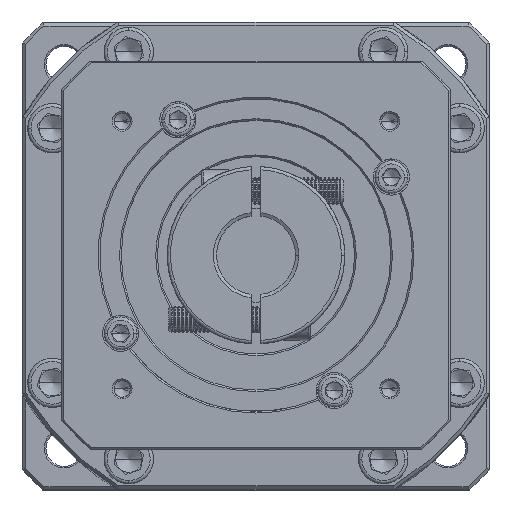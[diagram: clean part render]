
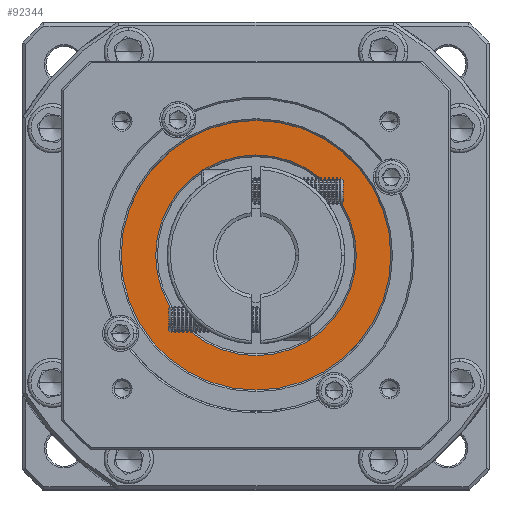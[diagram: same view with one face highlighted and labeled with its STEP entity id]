
A CAD part, top view. The second image highlights one B-rep face of the part: STEP entity #92344.
In plain terms, the highlighted planar face has unit normal (0, 0, 1).
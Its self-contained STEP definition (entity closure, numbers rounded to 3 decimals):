
#9160 = FACE_OUTER_BOUND ( 'NONE', #101639, .T. ) ;
#9846 = DIRECTION ( 'NONE',  ( 1., 0., 0. ) ) ;
#14684 = DIRECTION ( 'NONE',  ( 0., 0., 1. ) ) ;
#20465 = DIRECTION ( 'NONE',  ( 0., 0., 1. ) ) ;
#20632 = VERTEX_POINT ( 'NONE', #104989 ) ;
#37775 = CARTESIAN_POINT ( 'NONE',  ( -174.735, 76.693, 18.4 ) ) ;
#51844 = EDGE_CURVE ( 'NONE', #143214, #99450, #75699, .T. ) ;
#55231 = EDGE_CURVE ( 'NONE', #135789, #20632, #128345, .T. ) ;
#55668 = DIRECTION ( 'NONE',  ( 0., 0., -1. ) ) ;
#62570 = AXIS2_PLACEMENT_3D ( 'NONE', #111612, #20465, #122479 ) ;
#64929 = DIRECTION ( 'NONE',  ( 0., 0., 1. ) ) ;
#66290 = AXIS2_PLACEMENT_3D ( 'NONE', #132580, #64929, #9846 ) ;
#70120 = ORIENTED_EDGE ( 'NONE', *, *, #51844, .T. ) ;
#75699 = CIRCLE ( 'NONE', #141513, 30.5 ) ;
#78830 = ORIENTED_EDGE ( 'NONE', *, *, #91000, .T. ) ;
#87558 = ORIENTED_EDGE ( 'NONE', *, *, #139306, .T. ) ;
#91000 = EDGE_CURVE ( 'NONE', #99450, #143214, #115800, .T. ) ;
#92344 = ADVANCED_FACE ( 'NONE', ( #9160, #106133 ), #144919, .T. ) ;
#95483 = EDGE_LOOP ( 'NONE', ( #78830, #70120 ) ) ;
#97180 = CIRCLE ( 'NONE', #120752, 41. ) ;
#97487 = DIRECTION ( 'NONE',  ( 1., 0., 0. ) ) ;
#99450 = VERTEX_POINT ( 'NONE', #146237 ) ;
#101639 = EDGE_LOOP ( 'NONE', ( #87558, #136261 ) ) ;
#104752 = AXIS2_PLACEMENT_3D ( 'NONE', #109303, #122121, #97487 ) ;
#104989 = CARTESIAN_POINT ( 'NONE',  ( -133.735, 76.693, 18.4 ) ) ;
#105753 = DIRECTION ( 'NONE',  ( 1., 0., 0. ) ) ;
#106133 = FACE_BOUND ( 'NONE', #95483, .T. ) ;
#109303 = CARTESIAN_POINT ( 'NONE',  ( -174.735, 76.693, 18.4 ) ) ;
#111612 = CARTESIAN_POINT ( 'NONE',  ( -174.735, 76.693, 18.4 ) ) ;
#112467 = CARTESIAN_POINT ( 'NONE',  ( -205.235, 76.693, 18.4 ) ) ;
#112895 = CARTESIAN_POINT ( 'NONE',  ( -174.735, 76.693, 18.4 ) ) ;
#115800 = CIRCLE ( 'NONE', #104752, 30.5 ) ;
#120752 = AXIS2_PLACEMENT_3D ( 'NONE', #37775, #14684, #105753 ) ;
#122121 = DIRECTION ( 'NONE',  ( 0., 0., -1. ) ) ;
#122479 = DIRECTION ( 'NONE',  ( 1., 0., 0. ) ) ;
#124250 = DIRECTION ( 'NONE',  ( 1., 0., 0. ) ) ;
#128345 = CIRCLE ( 'NONE', #62570, 41. ) ;
#132580 = CARTESIAN_POINT ( 'NONE',  ( -174.735, 76.693, 18.4 ) ) ;
#135789 = VERTEX_POINT ( 'NONE', #136510 ) ;
#136261 = ORIENTED_EDGE ( 'NONE', *, *, #55231, .T. ) ;
#136510 = CARTESIAN_POINT ( 'NONE',  ( -215.735, 76.693, 18.4 ) ) ;
#139306 = EDGE_CURVE ( 'NONE', #20632, #135789, #97180, .T. ) ;
#141513 = AXIS2_PLACEMENT_3D ( 'NONE', #112895, #55668, #124250 ) ;
#143214 = VERTEX_POINT ( 'NONE', #112467 ) ;
#144919 = PLANE ( 'NONE',  #66290 ) ;
#146237 = CARTESIAN_POINT ( 'NONE',  ( -144.235, 76.693, 18.4 ) ) ;
